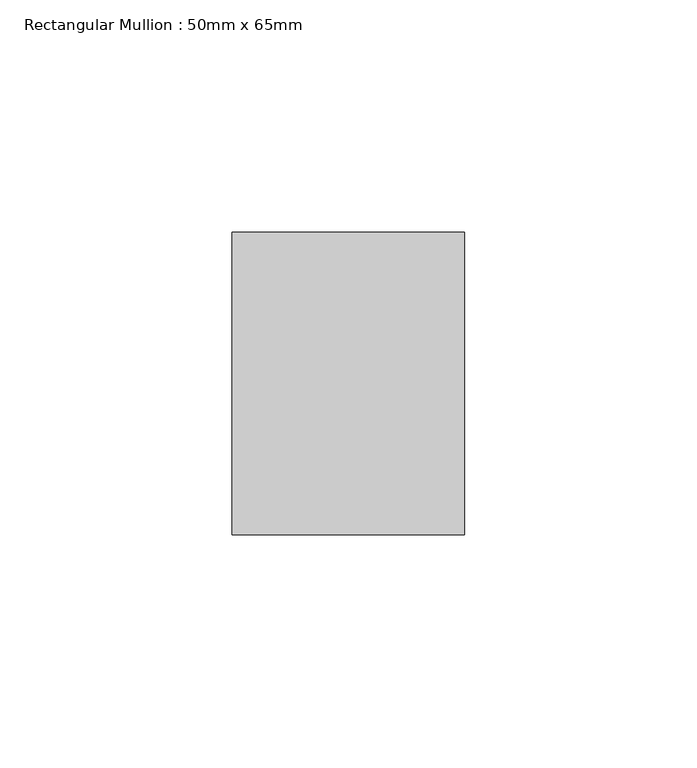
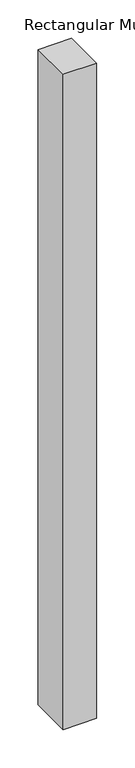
"""IFC4 building model written with IfcOpenShell, lengths in millimetres: member geometry, Rectangular Mullion : 50mm x 65mm."""

import ifcopenshell
import ifcopenshell.guid

model = None  # the IFC model being written
_history = None  # IfcOwnerHistory: only IFC2X3 demands one
_inside = {}  # id of a spatial element -> (the spatial element, [elements in it])
_under = {}  # id of a project, library or spatial element -> (it, [spatial elements below it])
_declared = {}  # id of a project -> (the project, [libraries it declares])
_typed = {}  # id of a type object -> (the type object, [elements of that type])
_made_of = {}  # id of a material, layer set ... -> (it, [elements and type objects made of it])


def new_model(schema):
    """Start an empty IFC model of exactly this schema.

    Asked for "IFC4X3", IfcOpenShell would pick the latest addendum, in which some entities
    have other attributes; the version numbers below select the first issue.
    IFC2X3 requires an IfcOwnerHistory on every rooted entity: one is made here for all.
    """
    global model, _history
    if schema == "IFC4X3":
        model = ifcopenshell.file(schema_version=(4, 3, 0, 0))
    else:
        model = ifcopenshell.file(schema=schema)
    _inside.clear()
    _under.clear()
    _declared.clear()
    _typed.clear()
    _made_of.clear()
    _history = None
    if model.schema == "IFC2X3":
        org = make("IfcOrganization", Name="unknown")
        user = make(
            "IfcPersonAndOrganization",
            ThePerson=make("IfcPerson", FamilyName="unknown"),
            TheOrganization=org,
        )
        app = make(
            "IfcApplication",
            ApplicationDeveloper=org,
            Version="unknown",
            ApplicationFullName="unknown",
            ApplicationIdentifier="unknown",
        )
        _history = make(
            "IfcOwnerHistory",
            OwningUser=user,
            OwningApplication=app,
            ChangeAction="ADDED",
            CreationDate=0,
        )
    return model


def make(cls, **values):
    """One entity of the class cls with the attributes given. An attribute that is None is left unset."""
    return model.create_entity(
        cls, **{name: value for name, value in values.items() if value is not None}
    )


def rooted(cls, **values):
    """An entity with a GlobalId (a new one), such as an element, a storey or a relation."""
    return make(cls, GlobalId=ifcopenshell.guid.new(), OwnerHistory=_history, **values)


def si_unit(unit_type, name, prefix=None):
    """IfcSIUnit, for example si_unit("LENGTHUNIT", "METRE", prefix="MILLI")."""
    return make("IfcSIUnit", UnitType=unit_type, Prefix=prefix, Name=name)


def assignment(units):
    """IfcUnitAssignment: the units of a project."""
    return None if units is None else make("IfcUnitAssignment", Units=units)


def point(xyz):
    """IfcCartesianPoint."""
    return None if xyz is None else make("IfcCartesianPoint", Coordinates=xyz)


def direction(xyz):
    """IfcDirection."""
    return None if xyz is None else make("IfcDirection", DirectionRatios=xyz)


def frame(location, z_axis=None, x_axis=None):
    """IfcAxis2Placement3D, a coordinate frame: its origin and axes. An axis left out is left unset."""
    return make(
        "IfcAxis2Placement3D",
        Location=point(location),
        Axis=direction(z_axis),
        RefDirection=direction(x_axis),
    )


def origin():
    """The frame at (0, 0, 0) with its axes left unset."""
    return frame((0.0, 0.0, 0.0))


def place(relative_to, where):
    """IfcLocalPlacement: puts the frame where relative to a parent placement (None: the world)."""
    return make(
        "IfcLocalPlacement", PlacementRelTo=relative_to, RelativePlacement=where
    )


def context(
    kind, dimensions, precision=None, world=None, true_north=None, identifier=None
):
    """IfcGeometricRepresentationContext, for example the 3D "Model" context."""
    return make(
        "IfcGeometricRepresentationContext",
        ContextIdentifier=identifier,
        ContextType=kind,
        CoordinateSpaceDimension=dimensions,
        Precision=precision,
        WorldCoordinateSystem=world,
        TrueNorth=true_north,
    )


def project(units=None, contexts=None):
    """IfcProject with its units and contexts."""
    return rooted(
        "IfcProject",
        Name="project",
        RepresentationContexts=contexts,
        UnitsInContext=assignment(units),
    )


def spatial(cls, under=None, at=None, **own):
    """A site, building, storey or space (cls), placed at a placement, below another one or the project."""
    s = rooted(cls, ObjectPlacement=at, **own)
    if under is not None:
        _under.setdefault(under.id(), (under, []))[1].append(s)
    return s


def polyline(points):
    """IfcPolyline through the points."""
    return make("IfcPolyline", Points=[point(p) for p in points])


def outline(outer, holes=None, kind="AREA"):
    """IfcArbitraryClosedProfileDef: a profile drawn as a closed curve; with holes, ...WithVoids."""
    if holes is None:
        return make("IfcArbitraryClosedProfileDef", ProfileType=kind, OuterCurve=outer)
    return make(
        "IfcArbitraryProfileDefWithVoids",
        ProfileType=kind,
        OuterCurve=outer,
        InnerCurves=holes,
    )


def extrude(swept, where, along, depth):
    """IfcExtrudedAreaSolid: the profile swept, set in the frame where, extruded along a direction by depth."""
    return make(
        "IfcExtrudedAreaSolid",
        SweptArea=swept,
        Position=where,
        ExtrudedDirection=direction(along),
        Depth=depth,
    )


def shape(context_of_items, identifier, shape_type, items):
    """IfcShapeRepresentation: the items that make up one representation, for example the "Body"."""
    return make(
        "IfcShapeRepresentation",
        ContextOfItems=context_of_items,
        RepresentationIdentifier=identifier,
        RepresentationType=shape_type,
        Items=items,
    )


def source(mapping_origin, context_of_items, identifier, shape_type, items):
    """IfcRepresentationMap: a shape defined once, which mapped items show again and again."""
    return make(
        "IfcRepresentationMap",
        MappingOrigin=mapping_origin,
        MappedRepresentation=shape(context_of_items, identifier, shape_type, items),
    )


def transform(
    local_origin,
    x_axis=None,
    y_axis=None,
    z_axis=None,
    scale=None,
    scale2=None,
    scale3=None,
    uniform=True,
):
    """IfcCartesianTransformationOperator3D, or its non-uniform kind. x_axis, y_axis, z_axis: its Axis1, 2, 3."""
    if uniform:
        return make(
            "IfcCartesianTransformationOperator3D",
            Axis1=direction(x_axis),
            Axis2=direction(y_axis),
            LocalOrigin=point(local_origin),
            Scale=scale,
            Axis3=direction(z_axis),
        )
    return make(
        "IfcCartesianTransformationOperator3DnonUniform",
        Axis1=direction(x_axis),
        Axis2=direction(y_axis),
        LocalOrigin=point(local_origin),
        Scale=scale,
        Axis3=direction(z_axis),
        Scale2=scale2,
        Scale3=scale3,
    )


def mapped(mapping_source, mapping_target):
    """IfcMappedItem: shows the shape of a source again, moved by a transform."""
    return make(
        "IfcMappedItem", MappingSource=mapping_source, MappingTarget=mapping_target
    )


def made_of(thing, what):
    """Note that an element or type object is made of a material, layer set ...; save() writes the relation."""
    if what is not None:
        _made_of.setdefault(what.id(), (what, []))[1].append(thing)
    return thing


def element(
    cls,
    number,
    at=None,
    inside=None,
    cuts=None,
    type_object=None,
    material=None,
    context=None,
    identifier="Body",
    shape_type=None,
    held_by="IfcProductDefinitionShape",
    body=None,
    shapes=None,
    **own,
):
    """One element of the class cls, such as IfcWall. Its Tag is "e" and its number.

    at: its placement. inside: the storey or other place that contains it. cuts: it is an
    opening in that element (IfcRelVoidsElement). A single representation is given by context,
    identifier, shape_type and body (its items); several are given by shapes. held_by: the class
    of the entity that holds the representations. save() writes the other relations.
    """
    e = rooted(cls, Tag="e%d" % number, ObjectPlacement=at, **own)
    if body is not None:
        shapes = [shape(context, identifier, shape_type, body)]
    if shapes is not None:
        e.Representation = make(held_by, Representations=shapes)
    if inside is not None:
        _inside.setdefault(inside.id(), (inside, []))[1].append(e)
    if cuts is not None:
        rooted(
            "IfcRelVoidsElement", RelatingBuildingElement=cuts, RelatedOpeningElement=e
        )
    if type_object is not None:
        _typed.setdefault(type_object.id(), (type_object, []))[1].append(e)
    return made_of(e, material)


def aggregate(whole, parts):
    """IfcRelAggregates: a whole, such as a stair, and the parts it consists of."""
    return rooted("IfcRelAggregates", RelatingObject=whole, RelatedObjects=parts)


def save(model, path):
    """Write the relations noted so far, then the file.

    IfcRelAggregates (storeys below a building ...), IfcRelContainedInSpatialStructure (elements
    in a storey), IfcRelDefinesByType, IfcRelAssociatesMaterial and IfcRelDeclares: one each for
    every whole, place, type object, material and project.
    """
    for whole, parts in _under.values():
        aggregate(whole, parts)
    for where, things in _inside.values():
        rooted(
            "IfcRelContainedInSpatialStructure",
            RelatedElements=things,
            RelatingStructure=where,
        )
    for kind, things in _typed.values():
        rooted("IfcRelDefinesByType", RelatedObjects=things, RelatingType=kind)
    for what, things in _made_of.values():
        rooted("IfcRelAssociatesMaterial", RelatedObjects=things, RelatingMaterial=what)
    for by, libraries in _declared.values():
        rooted("IfcRelDeclares", RelatingContext=by, RelatedDefinitions=libraries)
    model.write(path)


def rectangular_mullion_50mm_x_65mm_674574ef(model_context):
    return source(origin(), model_context, "Body", "SweptSolid", [
        extrude(outline(polyline([(0.0, 32.5), (0.0, -32.5), (-50.0, -32.5), (-50.0, 32.5), (0.0, 32.5)])), frame((0.0, 0.0, -1039.4466451), z_axis=(0.0, 0.0, 1.0), x_axis=(1.0, 0.0, 0.0)), (0.0, 0.0, 1.0), 1039.4466451),
    ])


if __name__ == "__main__":
    model = new_model("IFC4")
    model_context = context("Model", 3, world=origin())
    ifc_project = project(units=[si_unit("LENGTHUNIT", "METRE", prefix="MILLI")], contexts=[model_context])
    site = spatial("IfcSite", under=ifc_project)
    building = spatial("IfcBuilding", under=site)
    placement = place(None, origin())
    rectangular_mullion_50mm_x_65mm_shape = rectangular_mullion_50mm_x_65mm_674574ef(model_context)
    element("IfcMember", 1, ObjectType="Rectangular Mullion : 50mm x 65mm", at=placement, inside=building, context=model_context, shape_type="MappedRepresentation", body=[
        mapped(rectangular_mullion_50mm_x_65mm_shape, transform((0.0, 0.0, 0.0), x_axis=(1.0, 0.0, 0.0), y_axis=(0.0, 1.0, 0.0), z_axis=(0.0, 0.0, 1.0))),
    ])
    save(model, "model.ifc")
